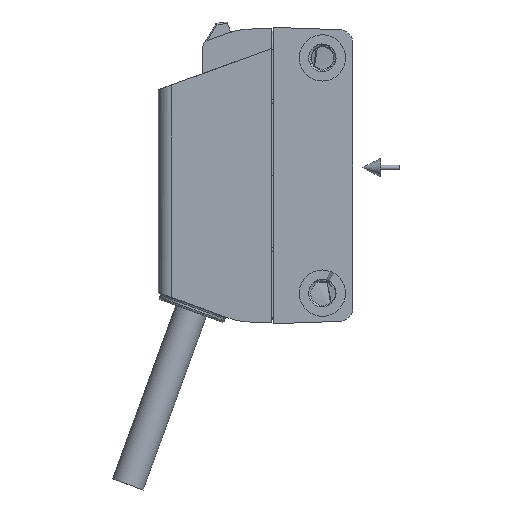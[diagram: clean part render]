
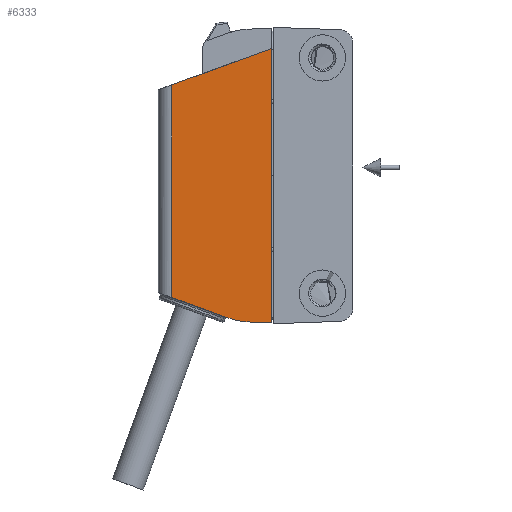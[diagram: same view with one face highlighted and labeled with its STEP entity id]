
A CAD part, front view. The second image highlights one B-rep face of the part: STEP entity #6333.
In plain terms, the highlighted planar face has unit normal (-0.035, -0.999, 0) as drawn and (0, 0.999, -0.035) by its records, which use the part's own axes.
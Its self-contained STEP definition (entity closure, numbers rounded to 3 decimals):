
#102=ELLIPSE('',#6746,7.505,7.5);
#386=LINE('',#11922,#715);
#408=LINE('',#12077,#737);
#410=LINE('',#12088,#739);
#411=LINE('',#12090,#740);
#412=LINE('',#12092,#741);
#715=VECTOR('',#7762,1000.);
#737=VECTOR('',#7814,1000.);
#739=VECTOR('',#7828,1000.);
#740=VECTOR('',#7829,1000.);
#741=VECTOR('',#7830,1000.);
#878=PLANE('',#6748);
#2432=ORIENTED_EDGE('',*,*,#3221,.T.);
#2433=ORIENTED_EDGE('',*,*,#3184,.T.);
#2434=ORIENTED_EDGE('',*,*,#3216,.F.);
#2435=ORIENTED_EDGE('',*,*,#3219,.T.);
#2436=ORIENTED_EDGE('',*,*,#3222,.T.);
#2437=ORIENTED_EDGE('',*,*,#3223,.T.);
#3184=EDGE_CURVE('',#3637,#3635,#386,.T.);
#3216=EDGE_CURVE('',#3657,#3635,#408,.T.);
#3219=EDGE_CURVE('',#3657,#3659,#102,.T.);
#3221=EDGE_CURVE('',#3661,#3637,#410,.T.);
#3222=EDGE_CURVE('',#3659,#3662,#411,.T.);
#3223=EDGE_CURVE('',#3662,#3661,#412,.T.);
#3635=VERTEX_POINT('',#11920);
#3637=VERTEX_POINT('',#11923);
#3657=VERTEX_POINT('',#12076);
#3659=VERTEX_POINT('',#12083);
#3661=VERTEX_POINT('',#12089);
#3662=VERTEX_POINT('',#12091);
#3958=EDGE_LOOP('',(#2432,#2433,#2434,#2435,#2436,#2437));
#4244=FACE_BOUND('',#3958,.T.);
#6333=ADVANCED_FACE('',(#4244),#878,.T.);
#6746=AXIS2_PLACEMENT_3D('',#12085,#7822,#7823);
#6748=AXIS2_PLACEMENT_3D('',#12087,#7826,#7827);
#7762=DIRECTION('',(-1.,0.,0.));
#7814=DIRECTION('',(0.342,-0.033,-0.939));
#7822=DIRECTION('',(0.,0.999,-0.035));
#7823=DIRECTION('',(0.,-0.035,-0.999));
#7826=DIRECTION('',(0.,0.999,-0.035));
#7827=DIRECTION('',(-1.,0.,0.));
#7828=DIRECTION('',(-0.342,-0.033,-0.939));
#7829=DIRECTION('',(-0.035,0.035,0.999));
#7830=DIRECTION('',(1.,0.,0.));
#11920=CARTESIAN_POINT('',(-13.171,5.025,-19.552));
#11922=CARTESIAN_POINT('',(-12.644,5.025,-19.552));
#11923=CARTESIAN_POINT('',(9.794,5.025,-19.552));
#12076=CARTESIAN_POINT('',(-15.368,5.235,-13.516));
#12077=CARTESIAN_POINT('',(-15.309,5.23,-13.679));
#12083=CARTESIAN_POINT('',(-15.816,5.316,-11.213));
#12085=CARTESIAN_POINT('',(-8.32,5.325,-10.951));
#12087=CARTESIAN_POINT('',(0.,5.4,-8.8));
#12088=CARTESIAN_POINT('',(12.106,5.246,-13.201));
#12089=CARTESIAN_POINT('',(13.708,5.4,-8.8));
#12090=CARTESIAN_POINT('',(-15.881,5.381,-9.354));
#12091=CARTESIAN_POINT('',(-15.9,5.4,-8.8));
#12092=CARTESIAN_POINT('',(0.,5.4,-8.8));
